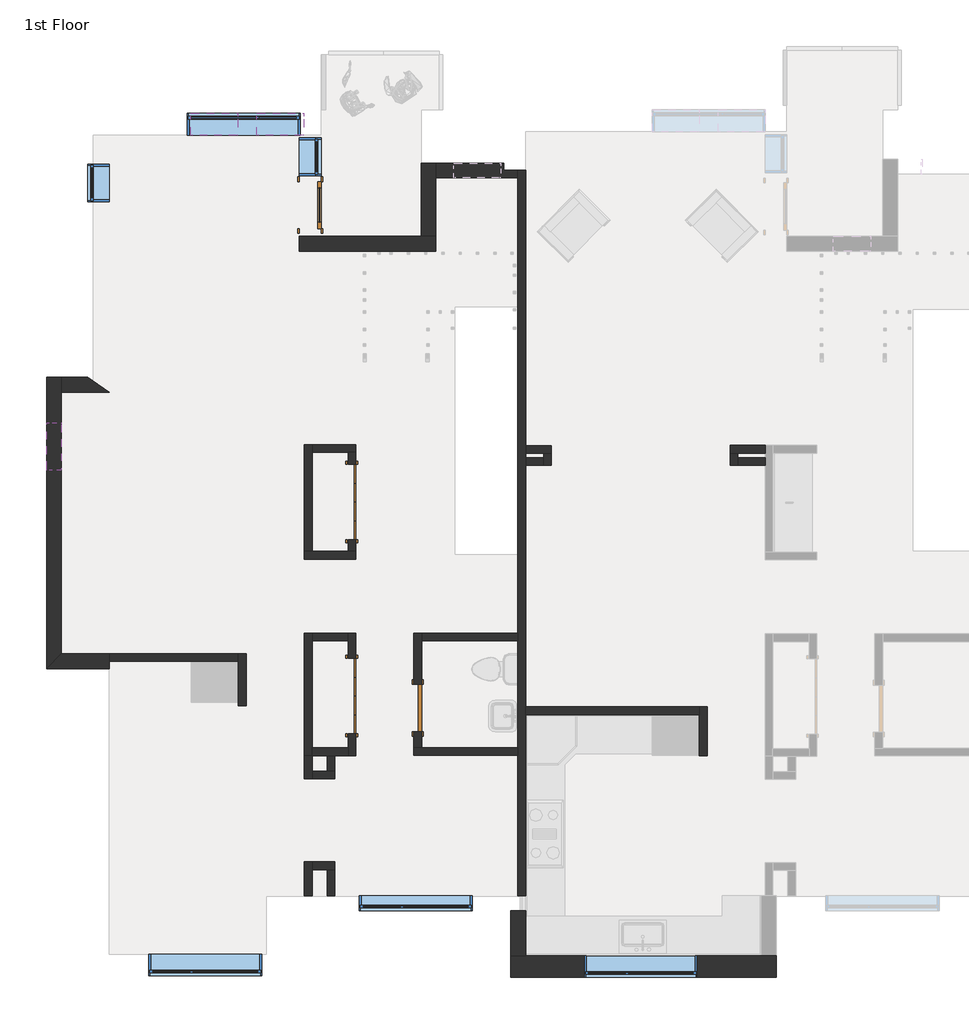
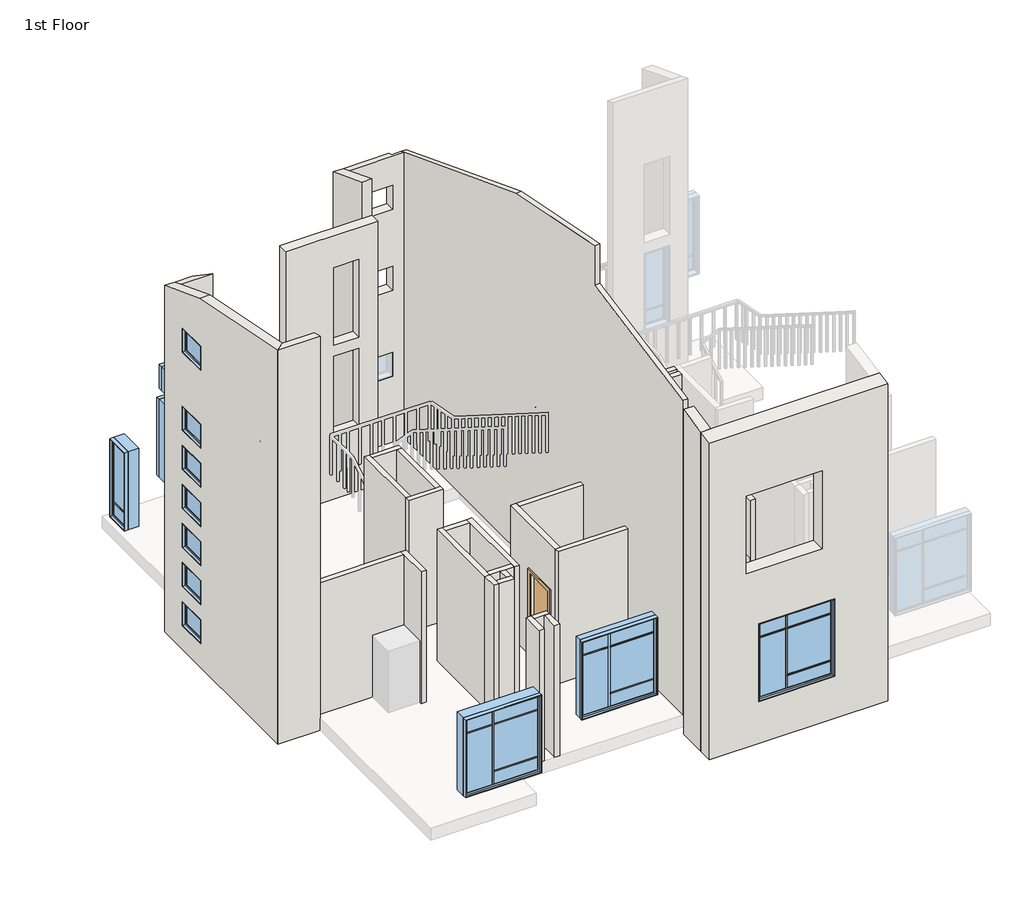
# One storey, part 1 of 2: 36 walls, 15 windows, 4 doors.
"""IFC4 building model written with IfcOpenShell, lengths in millimetres."""

from ifc_helpers import new_model, si_unit, frame, origin, origin_with_axes, place, context, project, spatial, polyline, outline, extrude, faceted_brep, transform, mapped, element, save
from components import bifold_4_panel_87549022, door_f8acb57e, door_45ea9bca, condo_apartment_window2_condo_apartment_window2_cbcd33dc, condo_apartment_window2_condo_apartment_window2_92945ac6, condo_apartment_window3_condo_apartment_window3_4697ba99, condo_apartment_window5_condo_apartment_window5_5cb7fe43, condo_apartment_window5_condo_apartment_window5_b48a20a4, condo_apartment_window5_condo_apartment_window5_0e9632d7

model = new_model("IFC4")

# Units and contexts
model_context = context("Model", 3, world=origin())
ifc_project = project(units=[si_unit("LENGTHUNIT", "METRE", prefix="MILLI")], contexts=[model_context])

# Site, building, storey
site = spatial("IfcSite", under=ifc_project)
building = spatial("IfcBuilding", under=site)
storey = spatial("IfcBuildingStorey", under=building, Name="1st Floor", Elevation=0.0)

# Doors
placement = place(None, origin())
bifold_4_panel_shape = bifold_4_panel_87549022(model_context)
element("IfcDoor", 1, ObjectType="Bifold - 4 panel : 48\" x  84\"", at=placement, inside=storey, context=model_context, shape_type="MappedRepresentation", body=[
    mapped(bifold_4_panel_shape, transform((-6531.6963845, 49598.199008, 0.0), x_axis=(0.0, -1.0, 0.0), y_axis=(1.0, 0.0, 0.0), z_axis=(0.0, 0.0, 1.0))),
])
element("IfcDoor", 2, ObjectType="Bifold - 4 panel : 48\" x  84\"", at=placement, inside=storey, context=model_context, shape_type="MappedRepresentation", body=[
    mapped(bifold_4_panel_shape, transform((-6531.6963845, 52734.518314, 0.0), x_axis=(0.0, -1.0, 0.0), y_axis=(1.0, 0.0, 0.0), z_axis=(0.0, 0.0, 1.0))),
])
door_shape = door_f8acb57e(model_context)
element("IfcDoor", 3, ObjectType="Single-Flush : 30\" x 84\"", at=placement, inside=storey, context=model_context, shape_type="MappedRepresentation", body=[
    mapped(door_shape, transform((-5470.1963845, 49403.349008, 0.0), x_axis=(0.0, -1.0, 0.0), y_axis=(1.0, 0.0, 0.0), z_axis=(0.0, 0.0, 1.0))),
])
door_2_shape = door_45ea9bca(model_context)
element("IfcDoor", 4, ObjectType="Single-Glass 1 : 30\" x 84\"", at=placement, inside=storey, context=model_context, shape_type="MappedRepresentation", body=[
    mapped(door_2_shape, transform((-7210.0497339, 57534.411508, 0.0), x_axis=(0.0, -1.0, 0.0), y_axis=(1.0, 0.0, 0.0), z_axis=(0.0, 0.0, 1.0))),
])

# Walls
element("IfcWall", 5, ObjectType="Exterior - Brick", at=placement, inside=storey, context=model_context, shape_type="Brep", body=[
    faceted_brep([(-3968.2372339, 45045.636508, -304.8), (327.0002661, 45045.636508, -304.8), (327.0002661, 45045.636508, 7755.5759818), (-3968.2372339, 45045.636508, 7755.5759818), (-3081.4236894, 45045.636508, 6096.0), (-1252.6236894, 45045.636508, 6096.0), (-1252.6236894, 45045.636508, 4114.8), (-3081.4236894, 45045.636508, 4114.8), (-2776.6236894, 45045.636508, 2743.2), (-947.8236894, 45045.636508, 2743.2), (-947.8236894, 45045.636508, 762.0), (-2776.6236894, 45045.636508, 762.0), (-3968.2372339, 45398.061508, -304.8), (-3968.2372339, 45398.061508, 7822.6464081), (-3726.9372339, 45398.061508, 7822.6464081), (85.7002661, 45398.061508, 7822.6464081), (327.0002661, 45398.061508, 7822.6464081), (327.0002661, 45398.061508, -304.8), (85.7002661, 45398.061508, -304.8), (-3726.9372339, 45398.061508, -304.8), (-3081.4236894, 45398.061508, 6096.0), (-3081.4236894, 45398.061508, 4114.8), (-1252.6236894, 45398.061508, 4114.8), (-1252.6236894, 45398.061508, 6096.0), (-2776.6236894, 45398.061508, 2743.2), (-2776.6236894, 45398.061508, 762.0), (-947.8236894, 45398.061508, 762.0), (-947.8236894, 45398.061508, 2743.2)], [[[0, 1, 2, 3], [4, 5, 6, 7], [8, 9, 10, 11]], [[12, 13, 14, 15, 16, 17, 18, 19], [20, 21, 22, 23], [24, 25, 26, 27]], [[1, 0, 12, 19, 18, 17]], [[0, 3, 13, 12]], [[2, 1, 17, 16]], [[3, 2, 16, 15, 14, 13]], [[21, 20, 4, 7]], [[22, 21, 7, 6]], [[23, 22, 6, 5]], [[20, 23, 5, 4]], [[25, 24, 8, 11]], [[26, 25, 11, 10]], [[27, 26, 10, 9]], [[24, 27, 9, 8]]]),
])
element("IfcWall", 6, ObjectType="Exterior - Stucco", at=placement, inside=storey, context=model_context, shape_type="Brep", body=[
    faceted_brep([(-11472.6122339, 54748.48762, -304.8), (-11472.6122339, 50037.586508, -304.8), (-11472.6122339, 50037.586508, 9713.3498366), (-11472.6122339, 53299.7913201, 9069.4446552), (-11472.6122339, 54748.48762, 8511.7370135), (-11472.6122339, 54011.099008, 914.4), (-11472.6122339, 53249.099008, 914.4), (-11472.6122339, 53249.099008, 304.8), (-11472.6122339, 54011.099008, 304.8), (-11472.6122339, 54011.099008, 1908.175), (-11472.6122339, 53249.099008, 1908.175), (-11472.6122339, 53249.099008, 1298.575), (-11472.6122339, 54011.099008, 1298.575), (-11472.6122339, 54011.099008, 2901.95), (-11472.6122339, 53249.099008, 2901.95), (-11472.6122339, 53249.099008, 2292.35), (-11472.6122339, 54011.099008, 2292.35), (-11472.6122339, 54011.099008, 3895.725), (-11472.6122339, 53249.099008, 3895.725), (-11472.6122339, 53249.099008, 3286.125), (-11472.6122339, 54011.099008, 3286.125), (-11472.6122339, 54011.099008, 4889.5), (-11472.6122339, 53249.099008, 4889.5), (-11472.6122339, 53249.099008, 4279.9), (-11472.6122339, 54011.099008, 4279.9), (-11472.6122339, 54011.099008, 5883.275), (-11472.6122339, 53249.099008, 5883.275), (-11472.6122339, 53249.099008, 5273.675), (-11472.6122339, 54011.099008, 5273.675), (-11472.6122339, 54011.099008, 7870.825), (-11472.6122339, 53249.099008, 7870.825), (-11472.6122339, 53249.099008, 7261.225), (-11472.6122339, 54011.099008, 7261.225), (-11231.3122339, 54748.48762, -304.8), (-11231.3122339, 54748.48762, 8511.7370135), (-11231.3122339, 54507.18762, 8604.6307787), (-11231.3122339, 53299.7913201, 9069.4446552), (-11231.3122339, 50278.886508, 9665.7212145), (-11231.3122339, 50278.886508, -304.8), (-11231.3122339, 54507.18762, -304.8), (-11231.3122339, 54011.099008, 914.4), (-11231.3122339, 54011.099008, 304.8), (-11231.3122339, 53249.099008, 304.8), (-11231.3122339, 53249.099008, 914.4), (-11231.3122339, 54011.099008, 1908.175), (-11231.3122339, 54011.099008, 1298.575), (-11231.3122339, 53249.099008, 1298.575), (-11231.3122339, 53249.099008, 1908.175), (-11231.3122339, 54011.099008, 2901.95), (-11231.3122339, 54011.099008, 2292.35), (-11231.3122339, 53249.099008, 2292.35), (-11231.3122339, 53249.099008, 2901.95), (-11231.3122339, 54011.099008, 3895.725), (-11231.3122339, 54011.099008, 3286.125), (-11231.3122339, 53249.099008, 3286.125), (-11231.3122339, 53249.099008, 3895.725), (-11231.3122339, 54011.099008, 4889.5), (-11231.3122339, 54011.099008, 4279.9), (-11231.3122339, 53249.099008, 4279.9), (-11231.3122339, 53249.099008, 4889.5), (-11231.3122339, 54011.099008, 5883.275), (-11231.3122339, 54011.099008, 5273.675), (-11231.3122339, 53249.099008, 5273.675), (-11231.3122339, 53249.099008, 5883.275), (-11231.3122339, 54011.099008, 7870.825), (-11231.3122339, 54011.099008, 7261.225), (-11231.3122339, 53249.099008, 7261.225), (-11231.3122339, 53249.099008, 7870.825)], [[[0, 1, 2, 3, 4], [5, 6, 7, 8], [9, 10, 11, 12], [13, 14, 15, 16], [17, 18, 19, 20], [21, 22, 23, 24], [25, 26, 27, 28], [29, 30, 31, 32]], [[33, 34, 35, 36, 37, 38, 39], [40, 41, 42, 43], [44, 45, 46, 47], [48, 49, 50, 51], [52, 53, 54, 55], [56, 57, 58, 59], [60, 61, 62, 63], [64, 65, 66, 67]], [[1, 0, 33, 39, 38]], [[0, 4, 34, 33]], [[2, 1, 38, 37]], [[4, 3, 36, 35, 34]], [[3, 2, 37, 36]], [[41, 40, 5, 8]], [[42, 41, 8, 7]], [[43, 42, 7, 6]], [[40, 43, 6, 5]], [[45, 44, 9, 12]], [[46, 45, 12, 11]], [[47, 46, 11, 10]], [[44, 47, 10, 9]], [[49, 48, 13, 16]], [[50, 49, 16, 15]], [[51, 50, 15, 14]], [[48, 51, 14, 13]], [[53, 52, 17, 20]], [[54, 53, 20, 19]], [[55, 54, 19, 18]], [[52, 55, 18, 17]], [[57, 56, 21, 24]], [[58, 57, 24, 23]], [[59, 58, 23, 22]], [[56, 59, 22, 21]], [[61, 60, 25, 28]], [[62, 61, 28, 27]], [[63, 62, 27, 26]], [[60, 63, 26, 25]], [[65, 64, 29, 32]], [[66, 65, 32, 31]], [[67, 66, 31, 30]], [[64, 67, 30, 29]]]),
])
element("IfcWall", 7, ObjectType="Exterior - Stucco", at=placement, inside=storey, context=model_context, shape_type="Brep", body=[
    faceted_brep([(-11231.3122339, 54507.18762, -304.8), (-10457.0497339, 54507.18762, -304.8), (-10457.0497339, 54507.18762, 8604.6307787), (-11231.3122339, 54507.18762, 8604.6307787), (-11231.3122339, 54748.48762, -304.8), (-11231.3122339, 54748.48762, 8511.7370135), (-10809.4747339, 54748.48762, 8511.7370135), (-10809.4747339, 54748.48762, -304.8)], [[[0, 1, 2, 3]], [[4, 5, 6, 7]], [[1, 0, 4, 7]], [[2, 1, 7, 6]], [[0, 3, 5, 4]], [[3, 2, 6, 5]]]),
])
element("IfcWall", 8, ObjectType="Exterior - Stucco", at=placement, inside=storey, context=model_context, shape_type="Brep", body=[
    faceted_brep([(-11472.6122339, 50037.586508, -304.8), (-10457.0497339, 50037.586508, -304.8), (-10457.0497339, 50037.586508, -28.575), (-10457.0497339, 50037.586508, 6705.6), (-10457.0497339, 50037.586508, 8705.6), (-10457.0497339, 50037.586508, 9713.3498366), (-11472.6122339, 50037.586508, 9713.3498366), (-11231.3122339, 50278.886508, -304.8), (-11231.3122339, 50278.886508, 9665.7212145), (-10457.0497339, 50278.886508, 9665.7212145), (-10457.0497339, 50278.886508, 6705.6), (-10457.0497339, 50278.886508, -304.8)], [[[0, 1, 2, 3, 4, 5, 6]], [[7, 8, 9, 10, 11]], [[1, 0, 7, 11]], [[5, 4, 3, 2, 1, 11, 10, 9]], [[0, 6, 8, 7]], [[6, 5, 9, 8]]]),
])
element("IfcWall", 9, ObjectType="Exterior - Stucco", at=placement, inside=storey, context=model_context, shape_type="Brep", body=[
    faceted_brep([(-7386.2622339, 56788.286508, 0.0), (-5175.7911158, 56788.286508, 0.0), (-5175.7911158, 56788.286508, 6705.6), (-6445.7894769, 56788.286508, 6705.6), (-6569.6144769, 56788.286508, 6705.6), (-7386.2622339, 56788.286508, 6705.6), (-5621.8786158, 56788.286508, 5892.8), (-5621.8786158, 56788.286508, 3911.6), (-6231.4786158, 56788.286508, 3911.6), (-6231.4786158, 56788.286508, 5892.8), (-5621.8786158, 56788.286508, 3632.2), (-5621.8786158, 56788.286508, 1651.0), (-6231.4786158, 56788.286508, 1651.0), (-6231.4786158, 56788.286508, 3632.2), (-5175.7911158, 57029.586508, 0.0), (-5417.0911158, 57029.586508, 0.0), (-7386.2622339, 57029.586508, 0.0), (-7386.2622339, 57029.586508, 6705.6), (-5175.7911158, 57029.586508, 6705.6), (-5621.8786158, 57029.586508, 3911.6), (-5621.8786158, 57029.586508, 5892.8), (-6231.4786158, 57029.586508, 5892.8), (-6231.4786158, 57029.586508, 3911.6), (-5621.8786158, 57029.586508, 1651.0), (-5621.8786158, 57029.586508, 3632.2), (-6231.4786158, 57029.586508, 3632.2), (-6231.4786158, 57029.586508, 1651.0)], [[[0, 1, 2, 3, 4, 5], [6, 7, 8, 9], [10, 11, 12, 13]], [[14, 15, 16, 17, 18], [19, 20, 21, 22], [23, 24, 25, 26]], [[1, 0, 16, 15, 14]], [[5, 4, 3, 2, 18, 17]], [[2, 1, 14, 18]], [[0, 5, 17, 16]], [[7, 6, 20, 19]], [[8, 7, 19, 22]], [[9, 8, 22, 21]], [[6, 9, 21, 20]], [[10, 24, 23, 11]], [[11, 23, 26, 12]], [[12, 26, 25, 13]], [[24, 10, 13, 25]]]),
])
element("IfcWall", 10, ObjectType="Exterior - Stucco", at=placement, inside=storey, context=model_context, shape_type="Brep", body=[
    faceted_brep([(-5175.7911158, 57029.586508, 0.0), (-5175.7911158, 57973.4989967, 0.0), (-5175.7911158, 58214.7989967, 0.0), (-5175.7911158, 58214.7989967, 7177.3038799), (-5175.7911158, 57973.4989967, 7270.1976451), (-5175.7911158, 57029.586508, 7633.5776082), (-5175.7911158, 57029.586508, 6705.6), (-5417.0911158, 57029.586508, 0.0), (-5417.0911158, 57029.586508, 7633.5776082), (-5417.0911158, 58214.7989967, 7177.3038799), (-5417.0911158, 58214.7989967, 0.0)], [[[0, 1, 2, 3, 4, 5, 6]], [[7, 8, 9, 10]], [[2, 1, 0, 7, 10]], [[3, 2, 10, 9]], [[0, 6, 5, 8, 7]], [[5, 4, 3, 9, 8]]]),
])
element("IfcWall", 11, ObjectType="Exterior - Stucco", at=placement, inside=storey, context=model_context, shape_type="Brep", body=[
    faceted_brep([(-5175.7911158, 57973.4989967, 0.0), (-3850.7622339, 57973.4989967, 0.0), (-3850.7622339, 57973.4989967, 7270.1976451), (-5175.7911158, 57973.4989967, 7270.1976451), (-4125.3997339, 57973.4989967, 2286.0), (-4125.3997339, 57973.4989967, 1676.4), (-4887.3997339, 57973.4989967, 1676.4), (-4887.3997339, 57973.4989967, 2286.0), (-4125.3997339, 57973.4989967, 4470.4), (-4125.3997339, 57973.4989967, 3860.8), (-4887.3997339, 57973.4989967, 3860.8), (-4887.3997339, 57973.4989967, 4470.4), (-4125.3997339, 57973.4989967, 6527.8), (-4125.3997339, 57973.4989967, 5918.2), (-4887.3997339, 57973.4989967, 5918.2), (-4887.3997339, 57973.4989967, 6527.8), (-4079.3622339, 58214.7989967, 0.0), (-5175.7911158, 58214.7989967, 0.0), (-5175.7911158, 58214.7989967, 7177.3038799), (-4079.3622339, 58214.7989967, 7177.3038799), (-4125.3997339, 58214.7989967, 1676.4), (-4125.3997339, 58214.7989967, 2286.0), (-4887.3997339, 58214.7989967, 2286.0), (-4887.3997339, 58214.7989967, 1676.4), (-4125.3997339, 58214.7989967, 3860.8), (-4125.3997339, 58214.7989967, 4470.4), (-4887.3997339, 58214.7989967, 4470.4), (-4887.3997339, 58214.7989967, 3860.8), (-4125.3997339, 58214.7989967, 5918.2), (-4125.3997339, 58214.7989967, 6527.8), (-4887.3997339, 58214.7989967, 6527.8), (-4887.3997339, 58214.7989967, 5918.2), (-4079.3622339, 58094.1489967, 0.0), (-3850.7622339, 58094.1489967, 0.0), (-3850.7622339, 58094.1489967, 7223.7507625), (-4079.3622339, 58094.1489967, 7223.7507625)], [[[0, 1, 2, 3], [4, 5, 6, 7], [8, 9, 10, 11], [12, 13, 14, 15]], [[16, 17, 18, 19], [20, 21, 22, 23], [24, 25, 26, 27], [28, 29, 30, 31]], [[1, 0, 17, 16, 32, 33]], [[0, 3, 18, 17]], [[2, 1, 33, 34]], [[33, 32, 35, 34]], [[16, 19, 35, 32]], [[3, 2, 34, 35, 19, 18]], [[5, 4, 21, 20]], [[6, 5, 20, 23]], [[7, 6, 23, 22]], [[4, 7, 22, 21]], [[9, 8, 25, 24]], [[10, 9, 24, 27]], [[11, 10, 27, 26]], [[8, 11, 26, 25]], [[12, 29, 28, 13]], [[13, 28, 31, 14]], [[14, 31, 30, 15]], [[29, 12, 15, 30]]]),
])
element("IfcWall", 12, ObjectType="Exterior - Stucco", at=placement, inside=storey, context=model_context, shape_type="SweptSolid", body=[
    extrude(outline(polyline([(46121.2755538, 7960.2821444), (46121.2755538, -304.8), (45398.061508, -304.8), (45398.061508, 7822.6464081), (46121.2755538, 7960.2821444)])), frame((-3968.2372339, 0.0, 0.0), z_axis=(1.0, 0.0, 0.0), x_axis=(0.0, 1.0, 0.0)), (0.0, 0.0, 1.0), 241.3),
])
element("IfcWall", 13, ObjectType="Interior - 4 7/8\" Partition (1-hr)", at=placement, inside=storey, context=model_context, shape_type="SweptSolid", body=[
    extrude(outline(polyline([(-915.6644769, 49296.061508), (-3726.9372339, 49296.061508), (-3726.9372339, 49419.886508), (-915.6644769, 49419.886508), (-915.6644769, 49296.061508)])), origin_with_axes(), (0.0, 0.0, 1.0), 3048.0),
])
element("IfcWall", 14, ObjectType="Interior - 4 7/8\" Partition (1-hr)", at=placement, inside=storey, context=model_context, shape_type="Brep", body=[
    faceted_brep([(-915.6644769, 49419.886508, 0.0), (-915.6644769, 49296.061508, 0.0), (-915.6644769, 48630.174008, 0.0), (-915.6644769, 48630.174008, 3048.0), (-915.6644769, 49296.061508, 3048.0), (-915.6644769, 49419.886508, 3048.0), (-791.8394769, 49419.886508, 0.0), (-791.8394769, 49419.886508, 3048.0), (-791.8394769, 48630.174008, 3048.0), (-791.8394769, 48630.174008, 0.0)], [[[0, 1, 2, 3, 4, 5]], [[6, 7, 8, 9]], [[2, 1, 0, 6, 9]], [[3, 2, 9, 8]], [[0, 5, 7, 6]], [[5, 4, 3, 8, 7]]]),
])
element("IfcWall", 15, ObjectType="Interior - 4 7/8\" Partition (1-hr)", at=placement, inside=storey, context=model_context, shape_type="Brep", body=[
    faceted_brep([(-3726.9372339, 53522.2197195, 0.0), (-3432.8359639, 53522.222746, 0.0), (-3309.0109639, 53522.2240202, 0.0), (-3309.0109639, 53522.2240202, 3048.0), (-3432.8359639, 53522.222746, 3048.0), (-3726.9372339, 53522.2197195, 3048.0), (-3726.9372339, 53646.0447195, 0.0), (-3726.9372339, 53646.0447195, 3048.0), (-3309.0122381, 53646.0490202, 3048.0), (-3309.0122381, 53646.0490202, 0.0)], [[[0, 1, 2, 3, 4, 5]], [[6, 7, 8, 9]], [[2, 1, 0, 6, 9]], [[3, 2, 9, 8]], [[0, 5, 7, 6]], [[5, 4, 3, 8, 7]]]),
])
element("IfcWall", 16, ObjectType="Interior - 4 7/8\" Partition (1-hr)", at=placement, inside=storey, context=model_context, shape_type="Brep", body=[
    faceted_brep([(-3432.8359639, 53522.222746, 0.0), (-3432.835213, 53449.25012, 0.0), (-3432.8339387, 53325.42512, 0.0), (-3432.8339387, 53325.42512, 3048.0), (-3432.835213, 53449.25012, 3048.0), (-3432.8359639, 53522.222746, 3048.0), (-3309.0109639, 53522.2240202, 0.0), (-3309.0109639, 53522.2240202, 3048.0), (-3309.0089387, 53325.42512, 3048.0), (-3309.0089387, 53325.42512, 0.0)], [[[0, 1, 2, 3, 4, 5]], [[6, 7, 8, 9]], [[2, 1, 0, 6, 9]], [[3, 2, 9, 8]], [[0, 5, 7, 6]], [[5, 4, 3, 8, 7]]]),
])
element("IfcWall", 17, ObjectType="Interior - 4 7/8\" Partition (1-hr)", at=placement, inside=storey, context=model_context, shape_type="SweptSolid", body=[
    extrude(outline(polyline([(-3726.9372339, 53449.25012), (-3432.835213, 53449.25012), (-3432.8339387, 53325.42512), (-3726.9372339, 53325.42512), (-3726.9372339, 53449.25012)])), origin_with_axes(), (0.0, 0.0, 1.0), 3048.0),
])
element("IfcWall", 18, ObjectType="Interior - 4 7/8\" Partition (1-hr)", at=placement, inside=storey, context=model_context, shape_type="Brep", body=[
    faceted_brep([(149.9627661, 53649.25012, 0.0), (-416.3622339, 53649.25012, 0.0), (-416.3622339, 53649.25012, 3048.0), (149.9627661, 53649.25012, 3048.0), (149.9627661, 53525.42512, 0.0), (149.9627661, 53525.42512, 3048.0), (-292.5372339, 53525.42512, 3048.0), (-416.3622339, 53525.42512, 3048.0), (-416.3622339, 53525.42512, 0.0), (-292.5372339, 53525.42512, 0.0)], [[[0, 1, 2, 3]], [[4, 5, 6, 7, 8, 9]], [[1, 0, 4, 9, 8]], [[2, 1, 8, 7]], [[0, 3, 5, 4]], [[3, 2, 7, 6, 5]]]),
])
element("IfcWall", 19, ObjectType="Interior - 4 7/8\" Partition (1-hr)", at=placement, inside=storey, context=model_context, shape_type="Brep", body=[
    faceted_brep([(-416.3622339, 53525.42512, 0.0), (-416.3622339, 53325.42512, 0.0), (-416.3622339, 53325.42512, 3048.0), (-416.3622339, 53525.42512, 3048.0), (-292.5372339, 53525.42512, 0.0), (-292.5372339, 53525.42512, 3048.0), (-292.5372339, 53449.25012, 3048.0), (-292.5372339, 53325.42512, 3048.0), (-292.5372339, 53325.42512, 0.0), (-292.5372339, 53449.25012, 0.0)], [[[0, 1, 2, 3]], [[4, 5, 6, 7, 8, 9]], [[1, 0, 4, 9, 8]], [[2, 1, 8, 7]], [[0, 3, 5, 4]], [[3, 2, 7, 6, 5]]]),
])
element("IfcWall", 20, ObjectType="Interior - 4 7/8\" Partition (1-hr)", at=placement, inside=storey, context=model_context, shape_type="SweptSolid", body=[
    extrude(outline(polyline([(149.9627661, 53325.42512), (-292.5372339, 53325.42512), (-292.5372339, 53449.25012), (149.9627661, 53449.25012), (149.9627661, 53325.42512)])), origin_with_axes(), (0.0, 0.0, 1.0), 3048.0),
])
element("IfcWall", 21, ObjectType="Interior - 4 7/8\" Partition (1-hr)", at=placement, inside=storey, context=model_context, shape_type="Brep", body=[
    faceted_brep([(-3850.7622339, 48763.586508, 0.0), (-5408.2838845, 48763.586508, 0.0), (-5532.1088845, 48763.586508, 0.0), (-5532.1088845, 48763.586508, 3352.8), (-5408.2838845, 48763.586508, 3352.8), (-3850.7622339, 48763.586508, 3352.8), (-3850.7622339, 48639.761508, 0.0), (-3850.7622339, 48639.761508, 3352.8), (-5532.1088845, 48639.761508, 3352.8), (-5532.1088845, 48639.761508, 0.0)], [[[0, 1, 2, 3, 4, 5]], [[6, 7, 8, 9]], [[2, 1, 0, 6, 9]], [[5, 4, 3, 8, 7]], [[3, 2, 9, 8]], [[0, 5, 7, 6]]]),
])
element("IfcWall", 22, ObjectType="Interior - 4 7/8\" Partition (1-hr)", at=placement, inside=storey, context=model_context, shape_type="Brep", body=[
    faceted_brep([(-5408.2838845, 48763.586508, 0.0), (-5408.2838845, 49022.349008, 0.0), (-5408.2838845, 49022.349008, 2133.6), (-5408.2838845, 49784.349008, 2133.6), (-5408.2838845, 49784.349008, 0.0), (-5408.2838845, 50486.786508, 0.0), (-5408.2838845, 50610.611508, 0.0), (-5408.2838845, 50610.611508, 3352.8), (-5408.2838845, 50486.786508, 3352.8), (-5408.2838845, 48763.586508, 3352.8), (-5532.1088845, 49022.349008, 2133.6), (-5532.1088845, 49022.349008, 0.0), (-5532.1088845, 48763.586508, 0.0), (-5532.1088845, 48763.586508, 3352.8), (-5532.1088845, 50610.611508, 3352.8), (-5532.1088845, 50610.611508, 0.0), (-5532.1088845, 49784.349008, 0.0), (-5532.1088845, 49784.349008, 2133.6)], [[[0, 1, 2, 3, 4, 5, 6, 7, 8, 9]], [[10, 11, 12, 13, 14, 15, 16, 17]], [[12, 11, 1, 0]], [[16, 15, 6, 5, 4]], [[9, 8, 7, 14, 13]], [[7, 6, 15, 14]], [[0, 9, 13, 12]], [[2, 1, 11, 10]], [[3, 2, 10, 17]], [[4, 3, 17, 16]]]),
])
element("IfcWall", 23, ObjectType="Interior - 4 7/8\" Partition (1-hr)", at=placement, inside=storey, context=model_context, shape_type="SweptSolid", body=[
    extrude(outline(polyline([(-3850.7622339, 50486.786508), (-5408.2838845, 50486.786508), (-5408.2838845, 50610.611508), (-3850.7622339, 50610.611508), (-3850.7622339, 50486.786508)])), origin_with_axes(), (0.0, 0.0, 1.0), 3352.8),
])
element("IfcWall", 24, ObjectType="Interior - 4 7/8\" Partition (1-hr)", at=placement, inside=storey, context=model_context, shape_type="Brep", body=[
    faceted_brep([(-6469.7838845, 51933.611508, 0.0), (-6593.6088845, 51933.611508, 0.0), (-7179.4566415, 51933.611508, 0.0), (-7303.2816415, 51933.611508, 0.0), (-7303.2816415, 51933.611508, 3352.8), (-7179.4566415, 51933.611508, 3352.8), (-6593.6088845, 51933.611508, 3352.8), (-6469.7838845, 51933.611508, 3352.8), (-6469.7838845, 51809.786508, 0.0), (-6469.7838845, 51809.786508, 3352.8), (-7303.2816415, 51809.786508, 3352.8), (-7303.2816415, 51809.786508, 0.0)], [[[0, 1, 2, 3, 4, 5, 6, 7]], [[8, 9, 10, 11]], [[3, 2, 1, 0, 8, 11]], [[7, 6, 5, 4, 10, 9]], [[4, 3, 11, 10]], [[0, 7, 9, 8]]]),
])
element("IfcWall", 25, ObjectType="Interior - 4 7/8\" Partition (1-hr)", at=placement, inside=storey, context=model_context, shape_type="Brep", body=[
    faceted_brep([(-7179.4566415, 51933.611508, 0.0), (-7179.4566415, 53535.42512, 0.0), (-7179.4566415, 53659.25012, 0.0), (-7179.4566415, 53659.25012, 3352.8), (-7179.4566415, 53535.42512, 3352.8), (-7179.4566415, 51933.611508, 3352.8), (-7303.2816415, 51933.611508, 0.0), (-7303.2816415, 51933.611508, 3352.8), (-7303.2816415, 53659.25012, 3352.8), (-7303.2816415, 53659.25012, 0.0)], [[[0, 1, 2, 3, 4, 5]], [[6, 7, 8, 9]], [[2, 1, 0, 6, 9]], [[5, 4, 3, 8, 7]], [[3, 2, 9, 8]], [[0, 5, 7, 6]]]),
])
element("IfcWall", 26, ObjectType="Interior - 4 7/8\" Partition (1-hr)", at=placement, inside=storey, context=model_context, shape_type="Brep", body=[
    faceted_brep([(-7179.4566415, 53535.42512, 0.0), (-6593.6088845, 53535.42512, 0.0), (-6469.7838845, 53535.42512, 0.0), (-6469.7838845, 53535.42512, 3352.8), (-6593.6088845, 53535.42512, 3352.8), (-7179.4566415, 53535.42512, 3352.8), (-7179.4566415, 53659.25012, 0.0), (-7179.4566415, 53659.25012, 3352.8), (-6469.7838845, 53659.25012, 3352.8), (-6469.7838845, 53659.25012, 0.0)], [[[0, 1, 2, 3, 4, 5]], [[6, 7, 8, 9]], [[2, 1, 0, 6, 9]], [[5, 4, 3, 8, 7]], [[3, 2, 9, 8]], [[0, 5, 7, 6]]]),
])
element("IfcWall", 27, ObjectType="Interior - 4 7/8\" Partition (1-hr)", at=placement, inside=storey, context=model_context, shape_type="SweptSolid", body=[
    extrude(outline(polyline([(-8368.9088845, 50155.061508), (-10457.0497339, 50155.061508), (-10457.0497339, 50278.886508), (-8368.9088845, 50278.886508), (-8368.9088845, 50155.061508)])), origin_with_axes(), (0.0, 0.0, 1.0), 3352.8),
])
element("IfcWall", 28, ObjectType="Interior - 4 7/8\" Partition (1-hr)", at=placement, inside=storey, context=model_context, shape_type="Brep", body=[
    faceted_brep([(-6593.6088845, 48988.599008, 2133.6), (-6593.6088845, 48988.599008, 0.0), (-6593.6088845, 48757.349008, 0.0), (-6593.6088845, 48633.524008, 0.0), (-6593.6088845, 48633.524008, 3352.8), (-6593.6088845, 48757.349008, 3352.8), (-6593.6088845, 50486.786508, 3352.8), (-6593.6088845, 50610.611508, 3352.8), (-6593.6088845, 50610.611508, 0.0), (-6593.6088845, 50486.786508, 0.0), (-6593.6088845, 50207.799008, 0.0), (-6593.6088845, 50207.799008, 2133.6), (-6469.7838845, 48633.524008, 0.0), (-6469.7838845, 48988.599008, 0.0), (-6469.7838845, 48988.599008, 2133.6), (-6469.7838845, 50207.799008, 2133.6), (-6469.7838845, 50207.799008, 0.0), (-6469.7838845, 50610.611508, 0.0), (-6469.7838845, 50610.611508, 3352.8), (-6469.7838845, 48633.524008, 3352.8)], [[[0, 1, 2, 3, 4, 5, 6, 7, 8, 9, 10, 11]], [[12, 13, 14, 15, 16, 17, 18, 19]], [[3, 2, 1, 13, 12]], [[10, 9, 8, 17, 16]], [[7, 6, 5, 4, 19, 18]], [[8, 7, 18, 17]], [[4, 3, 12, 19]], [[14, 13, 1, 0]], [[15, 14, 0, 11]], [[16, 15, 11, 10]]]),
])
element("IfcWall", 29, ObjectType="Interior - 4 7/8\" Partition (1-hr)", at=placement, inside=storey, context=model_context, shape_type="Brep", body=[
    faceted_brep([(-7303.2816415, 50610.611508, 0.0), (-7303.2816415, 48633.524008, 0.0), (-7303.2816415, 48633.524008, 3352.8), (-7303.2816415, 50610.611508, 3352.8), (-7179.4566415, 50610.611508, 0.0), (-7179.4566415, 50610.611508, 3352.8), (-7179.4566415, 50486.786508, 3352.8), (-7179.4566415, 48757.349008, 3352.8), (-7179.4566415, 48633.524008, 3352.8), (-7179.4566415, 48633.524008, 0.0), (-7179.4566415, 48757.349008, 0.0), (-7179.4566415, 50486.786508, 0.0)], [[[0, 1, 2, 3]], [[4, 5, 6, 7, 8, 9, 10, 11]], [[1, 0, 4, 11, 10, 9]], [[3, 2, 8, 7, 6, 5]], [[0, 3, 5, 4]], [[2, 1, 9, 8]]]),
])
element("IfcWall", 30, ObjectType="Interior - 4 7/8\" Partition (1-hr)", at=placement, inside=storey, context=model_context, shape_type="Brep", body=[
    faceted_brep([(-8368.9088845, 50278.886508, 0.0), (-8368.9088845, 50155.061508, 0.0), (-8368.9088845, 49439.511508, 0.0), (-8368.9088845, 49439.511508, 3352.8), (-8368.9088845, 50155.061508, 3352.8), (-8368.9088845, 50278.886508, 3352.8), (-8245.0838845, 50278.886508, 0.0), (-8245.0838845, 50278.886508, 3352.8), (-8245.0838845, 49439.511508, 3352.8), (-8245.0838845, 49439.511508, 0.0)], [[[0, 1, 2, 3, 4, 5]], [[6, 7, 8, 9]], [[2, 1, 0, 6, 9]], [[3, 2, 9, 8]], [[5, 4, 3, 8, 7]], [[0, 5, 7, 6]]]),
])
element("IfcWall", 31, ObjectType="Interior - 4 7/8\" Partition (1-hr)", at=placement, inside=storey, context=model_context, shape_type="SweptSolid", body=[
    extrude(outline(polyline([(-6593.6088845, 50486.786508), (-7179.4566415, 50486.786508), (-7179.4566415, 50610.611508), (-6593.6088845, 50610.611508), (-6593.6088845, 50486.786508)])), origin_with_axes(), (0.0, 0.0, 1.0), 3352.8),
])
element("IfcWall", 32, ObjectType="Interior - 4 7/8\" Partition (1-hr)", at=placement, inside=storey, context=model_context, shape_type="SweptSolid", body=[
    extrude(outline(polyline([(-6593.6088845, 48633.524008), (-7179.4566415, 48633.524008), (-7179.4566415, 48757.349008), (-6593.6088845, 48757.349008), (-6593.6088845, 48633.524008)])), origin_with_axes(), (0.0, 0.0, 1.0), 3352.8),
])
element("IfcWall", 33, ObjectType="Interior - 4 7/8\" Partition (1-hr)", at=placement, inside=storey, context=model_context, shape_type="Brep", body=[
    faceted_brep([(-7303.2816415, 48633.524008, 0.0), (-7303.2816415, 48257.699008, 0.0), (-7303.2816415, 48257.699008, 3352.8), (-7303.2816415, 48633.524008, 3352.8), (-7179.4566415, 48633.524008, 0.0), (-7179.4566415, 48633.524008, 3352.8), (-7179.4566415, 48381.524008, 3352.8), (-7179.4566415, 48257.699008, 3352.8), (-7179.4566415, 48257.699008, 0.0), (-7179.4566415, 48381.524008, 0.0)], [[[0, 1, 2, 3]], [[4, 5, 6, 7, 8, 9]], [[1, 0, 4, 9, 8]], [[3, 2, 7, 6, 5]], [[2, 1, 8, 7]], [[0, 3, 5, 4]]]),
])
element("IfcWall", 34, ObjectType="Interior - 4 7/8\" Partition (1-hr)", at=placement, inside=storey, context=model_context, shape_type="Brep", body=[
    faceted_brep([(-7179.4566415, 48257.699008, 0.0), (-6813.1566415, 48257.699008, 0.0), (-6813.1566415, 48257.699008, 3352.8), (-7179.4566415, 48257.699008, 3352.8), (-7179.4566415, 48381.524008, 0.0), (-7179.4566415, 48381.524008, 3352.8), (-6936.9816415, 48381.524008, 3352.8), (-6813.1566415, 48381.524008, 3352.8), (-6813.1566415, 48381.524008, 0.0), (-6936.9816415, 48381.524008, 0.0)], [[[0, 1, 2, 3]], [[4, 5, 6, 7, 8, 9]], [[1, 0, 4, 9, 8]], [[3, 2, 7, 6, 5]], [[2, 1, 8, 7]], [[0, 3, 5, 4]]]),
])
element("IfcWall", 35, ObjectType="Interior - 4 7/8\" Partition (1-hr)", at=placement, inside=storey, context=model_context, shape_type="SweptSolid", body=[
    extrude(outline(polyline([(-6813.1566415, 48633.524008), (-6813.1566415, 48381.524008), (-6936.9816415, 48381.524008), (-6936.9816415, 48633.524008), (-6813.1566415, 48633.524008)])), origin_with_axes(), (0.0, 0.0, 1.0), 3352.8),
])
element("IfcWall", 36, ObjectType="Interior - 4 7/8\" Partition (1-hr)", at=placement, inside=storey, context=model_context, shape_type="Brep", body=[
    faceted_brep([(-7179.5833519, 46362.5755538, 0.0), (-7179.5833519, 46788.474008, 0.0), (-7179.5833519, 46912.299008, 0.0), (-7179.5833519, 46912.299008, 3352.8), (-7179.5833519, 46788.474008, 3352.8), (-7179.5833519, 46362.5755538, 3352.8), (-7303.4083519, 46362.5755538, 0.0), (-7303.4083519, 46362.5755538, 3352.8), (-7303.4083519, 46912.299008, 3352.8), (-7303.4083519, 46912.299008, 0.0)], [[[0, 1, 2, 3, 4, 5]], [[6, 7, 8, 9]], [[2, 1, 0, 6, 9]], [[5, 4, 3, 8, 7]], [[3, 2, 9, 8]], [[0, 5, 7, 6]]]),
])
element("IfcWall", 37, ObjectType="Interior - 4 7/8\" Partition (1-hr)", at=placement, inside=storey, context=model_context, shape_type="Brep", body=[
    faceted_brep([(-7179.5833519, 46788.474008, 0.0), (-6936.9816415, 46788.474008, 0.0), (-6813.1566415, 46788.474008, 0.0), (-6813.1566415, 46788.474008, 3352.8), (-6936.9816415, 46788.474008, 3352.8), (-7179.5833519, 46788.474008, 3352.8), (-7179.5833519, 46912.299008, 0.0), (-7179.5833519, 46912.299008, 3352.8), (-6813.1566415, 46912.299008, 3352.8), (-6813.1566415, 46912.299008, 0.0)], [[[0, 1, 2, 3, 4, 5]], [[6, 7, 8, 9]], [[2, 1, 0, 6, 9]], [[5, 4, 3, 8, 7]], [[3, 2, 9, 8]], [[0, 5, 7, 6]]]),
])
element("IfcWall", 38, ObjectType="Interior - 4 7/8\" Partition (1-hr)", at=placement, inside=storey, context=model_context, shape_type="SweptSolid", body=[
    extrude(outline(polyline([(-6936.9816415, 46362.5755538), (-6936.9816415, 46788.474008), (-6813.1566415, 46788.474008), (-6813.1566415, 46362.5755538), (-6936.9816415, 46362.5755538)])), origin_with_axes(), (0.0, 0.0, 1.0), 3352.8),
])
element("IfcWall", 39, ObjectType="Interior - 4 7/8\" Partition (1-hr)", at=placement, inside=storey, context=model_context, shape_type="SweptSolid", body=[
    extrude(outline(polyline([(52124.918314, 2133.6), (52124.918314, 0.0), (51933.611508, 0.0), (51933.611508, 3352.8), (53535.42512, 3352.8), (53535.42512, 0.0), (53344.118314, 0.0), (53344.118314, 2133.6), (52124.918314, 2133.6)])), frame((-6593.6088845, 0.0, 0.0), z_axis=(1.0, 0.0, 0.0), x_axis=(0.0, 1.0, 0.0)), (0.0, 0.0, 1.0), 123.825),
])
element("IfcWall", 40, ObjectType="Interior - 4 7/8\" Partition (1-hr)", at=placement, inside=storey, context=model_context, shape_type="Brep", body=[
    faceted_brep([(-3850.7622339, 58094.1489967, 0.0), (-3850.7622339, 57973.4989967, 0.0), (-3850.7622339, 46362.5755538, 0.0), (-3850.7622339, 46362.5755538, 8006.2042381), (-3850.7622339, 50037.586508, 8705.6), (-3850.7622339, 50037.586508, 9713.3498366), (-3850.7622339, 50278.886508, 9665.7212145), (-3850.7622339, 53299.7913201, 9069.4446552), (-3850.7622339, 57973.4989967, 7270.1976451), (-3850.7622339, 58094.1489967, 7223.7507625), (-3726.9372339, 58094.1489967, 0.0), (-3726.9372339, 58094.1489967, 7223.7507625), (-3726.9372339, 53299.7913201, 9069.4446552), (-3726.9372339, 50278.886508, 9665.7212145), (-3726.9372339, 50037.586508, 9713.3498366), (-3726.9372339, 50037.586508, 8705.6), (-3726.9372339, 46362.5755538, 8006.2042381), (-3726.9372339, 46362.5755538, 0.0), (-3726.9372339, 57973.4989967, 0.0)], [[[0, 1, 2, 3, 4, 5, 6, 7, 8, 9]], [[10, 11, 12, 13, 14, 15, 16, 17, 18]], [[2, 1, 0, 10, 18, 17]], [[0, 9, 11, 10]], [[3, 2, 17, 16]], [[14, 5, 4, 15]], [[4, 3, 16, 15]], [[9, 8, 7, 12, 11]], [[7, 6, 5, 14, 13, 12]]]),
])

# Windows
condo_apartment_window2_condo_apartment_window2_shape = condo_apartment_window2_condo_apartment_window2_cbcd33dc(model_context)
element("IfcWindow", 41, ObjectType="Condo - Apartment Window2 : Condo - Apartment Window2", at=placement, inside=storey, context=model_context, shape_type="MappedRepresentation", body=[
    mapped(condo_apartment_window2_condo_apartment_window2_shape, transform((-8246.7622339, 58842.136508, -292.1), x_axis=(1.0, 0.0, 0.0), y_axis=(0.0, 1.0, 0.0), z_axis=(0.0, 0.0, 1.0))),
])
condo_apartment_window2_condo_apartment_window2_2_shape = condo_apartment_window2_condo_apartment_window2_92945ac6(model_context)
element("IfcWindow", 42, ObjectType="Condo - Apartment Window2 : Condo - Apartment Window2", at=placement, inside=storey, context=model_context, shape_type="MappedRepresentation", body=[
    mapped(condo_apartment_window2_condo_apartment_window2_2_shape, transform((-5541.5691415, 46241.9255538, 317.5), x_axis=(-1.0, 0.0, 0.0), y_axis=(0.0, -1.0, 0.0), z_axis=(0.0, 0.0, 1.0))),
])
element("IfcWindow", 43, ObjectType="Condo - Apartment Window2 : Condo - Apartment Window2", at=placement, inside=storey, context=model_context, shape_type="MappedRepresentation", body=[
    mapped(condo_apartment_window2_condo_apartment_window2_shape, transform((-8945.8344377, 45246.099008, 165.1), x_axis=(-1.0, 0.0, 0.0), y_axis=(0.0, -1.0, 0.0), z_axis=(0.0, 0.0, 1.0))),
])
element("IfcWindow", 44, ObjectType="Condo - Apartment Window2 : Condo - Apartment Window2", at=placement, inside=storey, context=model_context, shape_type="MappedRepresentation", body=[
    mapped(condo_apartment_window2_condo_apartment_window2_shape, transform((-1900.3236894, 45221.849008, 165.1), x_axis=(-1.0, 0.0, 0.0), y_axis=(0.0, -1.0, 0.0), z_axis=(0.0, 0.0, 1.0))),
])
condo_apartment_window3_condo_apartment_window3_shape = condo_apartment_window3_condo_apartment_window3_4697ba99(model_context)
element("IfcWindow", 45, ObjectType="Condo - Apartment Window3 : Condo - Apartment Window3", at=placement, inside=storey, context=model_context, shape_type="MappedRepresentation", body=[
    mapped(condo_apartment_window3_condo_apartment_window3_shape, transform((-10633.2622339, 57931.286508, 12.7), x_axis=(0.0, 1.0, 0.0), y_axis=(-1.0, 0.0, 0.0), z_axis=(0.0, 0.0, 1.0))),
])
element("IfcWindow", 46, ObjectType="Condo - Apartment Window3 : Condo - Apartment Window3", at=placement, inside=storey, context=model_context, shape_type="MappedRepresentation", body=[
    mapped(condo_apartment_window3_condo_apartment_window3_shape, transform((-7210.0497339, 58277.361508, 622.3), x_axis=(0.0, -1.0, 0.0), y_axis=(1.0, 0.0, 0.0), z_axis=(0.0, 0.0, 1.0))),
])
condo_apartment_window5_condo_apartment_window5_shape = condo_apartment_window5_condo_apartment_window5_5cb7fe43(model_context)
element("IfcWindow", 47, ObjectType="Condo - Apartment Window5 : Condo - Apartment Window5", at=placement, inside=storey, context=model_context, shape_type="MappedRepresentation", body=[
    mapped(condo_apartment_window5_condo_apartment_window5_shape, transform((-7653.9997339, 58842.136508, 977.9), x_axis=(1.0, 0.0, 0.0), y_axis=(0.0, 1.0, 0.0), z_axis=(0.0, 0.0, 1.0))),
])
condo_apartment_window5_condo_apartment_window5_2_shape = condo_apartment_window5_condo_apartment_window5_b48a20a4(model_context)
element("IfcWindow", 48, ObjectType="Condo - Apartment Window5 : Condo - Apartment Window5", at=placement, inside=storey, context=model_context, shape_type="MappedRepresentation", body=[
    mapped(condo_apartment_window5_condo_apartment_window5_2_shape, transform((-11351.9622339, 53668.199008, -1206.5), x_axis=(0.0, 1.0, 0.0), y_axis=(-1.0, 0.0, 0.0), z_axis=(0.0, 0.0, 1.0))),
])
element("IfcWindow", 49, ObjectType="Condo - Apartment Window5 : Condo - Apartment Window5", at=placement, inside=storey, context=model_context, shape_type="MappedRepresentation", body=[
    mapped(condo_apartment_window5_condo_apartment_window5_2_shape, transform((-11351.9622339, 53668.199008, -212.725), x_axis=(0.0, 1.0, 0.0), y_axis=(-1.0, 0.0, 0.0), z_axis=(0.0, 0.0, 1.0))),
])
element("IfcWindow", 50, ObjectType="Condo - Apartment Window5 : Condo - Apartment Window5", at=placement, inside=storey, context=model_context, shape_type="MappedRepresentation", body=[
    mapped(condo_apartment_window5_condo_apartment_window5_2_shape, transform((-11351.9622339, 53668.199008, 781.05), x_axis=(0.0, 1.0, 0.0), y_axis=(-1.0, 0.0, 0.0), z_axis=(0.0, 0.0, 1.0))),
])
element("IfcWindow", 51, ObjectType="Condo - Apartment Window5 : Condo - Apartment Window5", at=placement, inside=storey, context=model_context, shape_type="MappedRepresentation", body=[
    mapped(condo_apartment_window5_condo_apartment_window5_2_shape, transform((-11351.9622339, 53668.199008, 1774.825), x_axis=(0.0, 1.0, 0.0), y_axis=(-1.0, 0.0, 0.0), z_axis=(0.0, 0.0, 1.0))),
])
element("IfcWindow", 52, ObjectType="Condo - Apartment Window5 : Condo - Apartment Window5", at=placement, inside=storey, context=model_context, shape_type="MappedRepresentation", body=[
    mapped(condo_apartment_window5_condo_apartment_window5_2_shape, transform((-11351.9622339, 53668.199008, 2768.6), x_axis=(0.0, 1.0, 0.0), y_axis=(-1.0, 0.0, 0.0), z_axis=(0.0, 0.0, 1.0))),
])
element("IfcWindow", 53, ObjectType="Condo - Apartment Window5 : Condo - Apartment Window5", at=placement, inside=storey, context=model_context, shape_type="MappedRepresentation", body=[
    mapped(condo_apartment_window5_condo_apartment_window5_2_shape, transform((-11351.9622339, 53668.199008, 3762.375), x_axis=(0.0, 1.0, 0.0), y_axis=(-1.0, 0.0, 0.0), z_axis=(0.0, 0.0, 1.0))),
])
element("IfcWindow", 54, ObjectType="Condo - Apartment Window5 : Condo - Apartment Window5", at=placement, inside=storey, context=model_context, shape_type="MappedRepresentation", body=[
    mapped(condo_apartment_window5_condo_apartment_window5_2_shape, transform((-11351.9622339, 53668.199008, 5749.925), x_axis=(0.0, 1.0, 0.0), y_axis=(-1.0, 0.0, 0.0), z_axis=(0.0, 0.0, 1.0))),
])
condo_apartment_window5_condo_apartment_window5_3_shape = condo_apartment_window5_condo_apartment_window5_0e9632d7(model_context)
element("IfcWindow", 55, ObjectType="Condo - Apartment Window5 : Condo - Apartment Window5", at=placement, inside=storey, context=model_context, shape_type="MappedRepresentation", body=[
    mapped(condo_apartment_window5_condo_apartment_window5_3_shape, transform((-8796.9997339, 58842.136508, 977.9), x_axis=(-1.0, 0.0, 0.0), y_axis=(0.0, -1.0, 0.0), z_axis=(0.0, 0.0, 1.0))),
])

save(model, "model.ifc")
